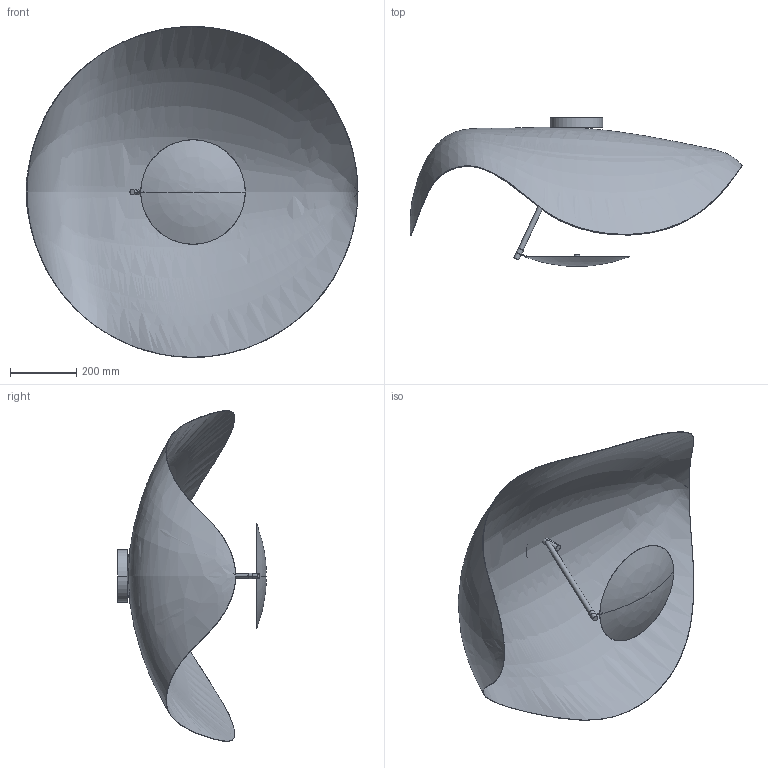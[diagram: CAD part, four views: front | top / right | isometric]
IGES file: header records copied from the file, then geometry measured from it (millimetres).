
Start section: SolidWorks IGES file using analytic representation for surfaces
Global section: file name: F:\燠隴矨\3D\2026-1\Giorgio Ceiling Light-D100cm.IGS,15; native system: HSolidWorks 2022; preprocessor: SolidWorks 2022; author: MyPC; date: 260119.175118; units: millimetre
Bounding box: 1004.37 x 450.36 x 1001.33 mm (x, y, z)
Surface area: 2292774.6 mm2 (no closed solid volume)
Topology: 0 solids, 0 shells, 35 faces, 727 edges, 723 vertices
Faces by surface type: bspline 19, revolution 16
